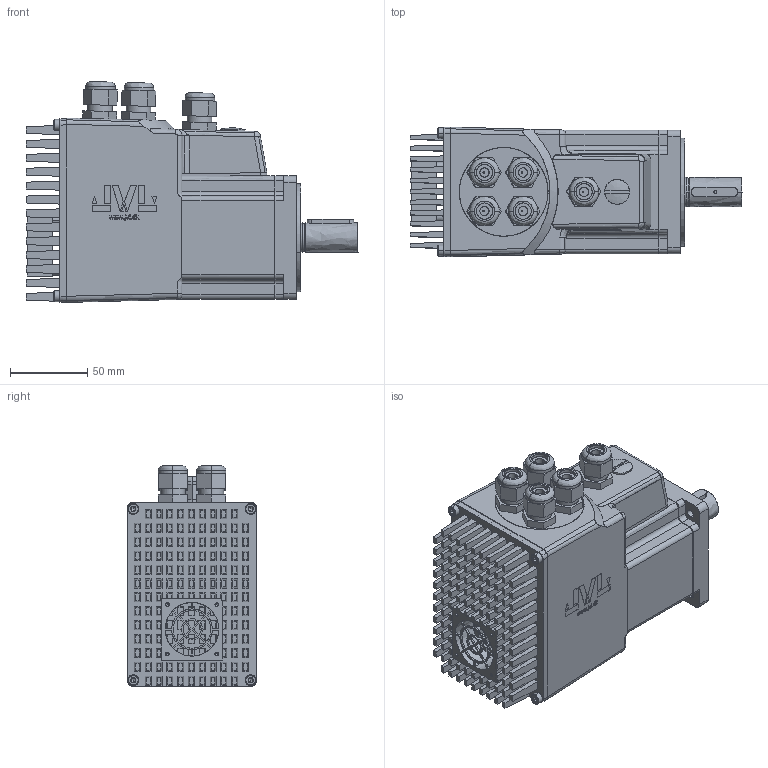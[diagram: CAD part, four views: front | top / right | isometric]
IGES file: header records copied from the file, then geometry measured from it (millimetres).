
Start section: MAC800-D1
Global section: file name: Mac800-D1.igs; native system:  By Spatial Corp.; preprocessor: XPlus GENERIC/IGES 3.0; author: www.stream-design.com; organization: www.jvl.dk; date: 20051206.084622; units: millimetre
Bounding box: 215 x 83.93 x 143.02 mm (x, y, z)
Surface area: 213597 mm2 (no closed solid volume)
Topology: 0 solids, 0 shells, 2012 faces, 10269 edges, 10247 vertices
Faces by surface type: bspline 2012
